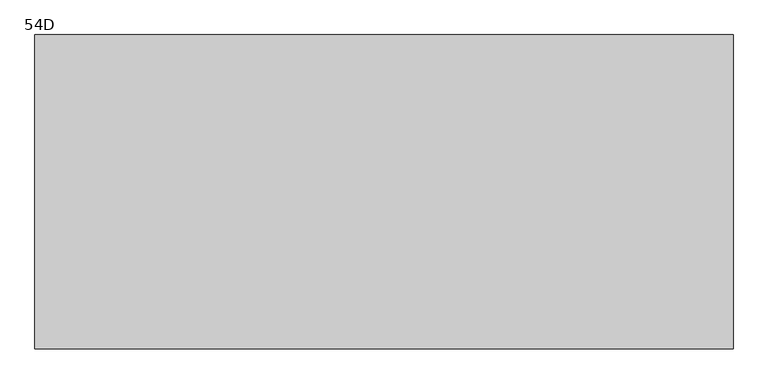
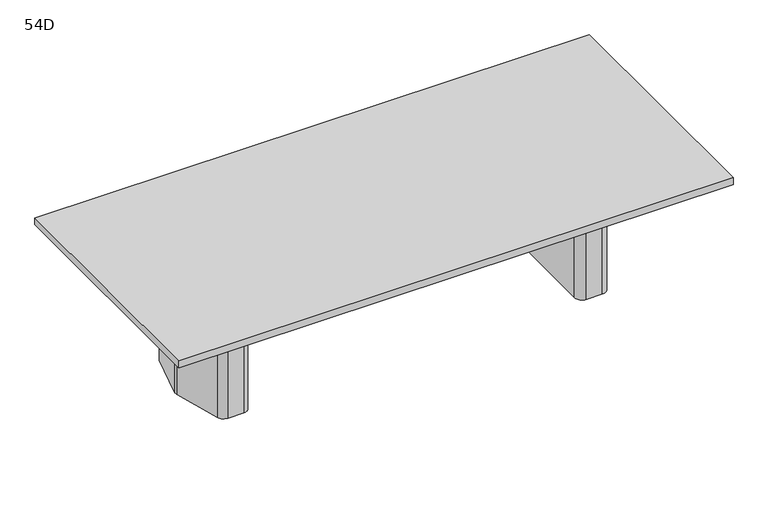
"""IFC4 building model written with IfcOpenShell, lengths in millimetres: furniture geometry, Coalesse_AM_Table_Conference_ETable2_Rectangular_10ft_TwoBase : 54D."""

from ifc_helpers import new_model, si_unit, frame, origin, place, context, project, spatial, polyline, circle_curve, outline, extrude, source, transform, mapped, element, save
from ifc_brep_helpers import plane_surface, cylinder_surface, revolved_surface, advanced_brep


def furniture_54d_78a3309c(model_context):
    return source(origin(), model_context, "Body", "SolidModel", [
        advanced_brep(
        [(1065.424548, 274.2093613, 698.5), (1025.5579246, 304.8, 698.5), (936.625, 304.8, 698.5), (895.35, 263.525, 698.5), (895.35, -263.525, 698.5), (936.625, -304.8, 698.5), (1025.5579246, -304.8, 698.5), (1065.424548, -274.2093613, 698.5), (1136.0503901, -10.6333708, 698.5), (1136.0503901, 10.6333708, 698.5), (933.45, -206.375, 698.5), (933.45, 206.375, 698.5), (958.85, 231.775, 698.5), (1017.8608422, 231.775, 698.5), (1042.395338, 212.9490792, 698.5), (1081.0875, 68.54974, 698.5), (1081.0875, -68.54974, 698.5), (1042.395338, -212.9490792, 698.5), (1017.8608422, -231.775, 698.5), (958.85, -231.775, 698.5), (1065.424548, 274.2093613, 3.175), (1136.0503901, 10.6333708, 3.175), (1136.0503901, -10.6333708, 3.175), (1065.424548, -274.2093613, 3.175), (1025.5579246, -304.8, 3.175), (936.625, -304.8, 3.175), (895.35, -263.525, 3.175), (895.35, 263.525, 3.175), (936.625, 304.8, 3.175), (1025.5579246, 304.8, 3.175), (1054.6625859, 216.2361187, 3.175), (1017.8608422, 244.475, 3.175), (958.85, 244.475, 3.175), (920.75, 206.375, 3.175), (920.75, -206.375, 3.175), (958.85, -244.475, 3.175), (1017.8608422, -244.475, 3.175), (1054.6625859, -216.2361187, 3.175), (1093.7875, -70.2217466, 3.175), (1093.7875, 70.2217466, 3.175), (958.85, -231.775, 3.175), (933.45, -206.375, 3.175), (1017.8608422, -231.775, 3.175), (1042.395338, -212.9490792, 3.175), (1081.0875, -68.54974, 3.175), (1081.0875, 68.54974, 3.175), (1042.395338, 212.9490792, 3.175), (1017.8608422, 231.775, 3.175), (958.85, 231.775, 3.175), (933.45, 206.375, 3.175), (1054.6625859, 216.2361187, 0.0), (1093.7875, 70.2217466, 0.0), (1093.7875, -70.2217466, 0.0), (1054.6625859, -216.2361187, 0.0), (1017.8608422, -244.475, 0.0), (958.85, -244.475, 0.0), (920.75, -206.375, 0.0), (920.75, 206.375, 0.0), (958.85, 244.475, 0.0), (1017.8608422, 244.475, 0.0)],
        [
            (0, 1, circle_curve(frame((1025.5579246, 263.5270004, 698.5), z_axis=(0.0, 0.0, 1.0), x_axis=(-1.0, 0.0, 0.0)), 41.2729996)),
            (1, 2),
            (2, 3, circle_curve(frame((936.625, 263.525, 698.5), z_axis=(0.0, 0.0, 1.0), x_axis=(-1.0, 0.0, 0.0)), 41.275)),
            (3, 4),
            (4, 5, circle_curve(frame((936.625, -263.525, 698.5), z_axis=(0.0, 0.0, 1.0), x_axis=(-1.0, 0.0, 0.0)), 41.275)),
            (5, 6),
            (6, 7, circle_curve(frame((1025.5579246, -263.5270004, 698.5), z_axis=(0.0, 0.0, 1.0), x_axis=(-1.0, 0.0, 0.0)), 41.2729996)),
            (7, 8),
            (8, 9, circle_curve(frame((1096.3665979, 0.0, 698.5), z_axis=(0.0, 0.0, 1.0), x_axis=(-1.0, 0.0, 0.0)), 41.0837187)),
            (9, 0),
            (10, 11),
            (11, 12, circle_curve(frame((958.85, 206.375, 698.5), z_axis=(0.0, 0.0, -1.0), x_axis=(-1.0, 0.0, 0.0)), 25.4)),
            (12, 13),
            (13, 14, circle_curve(frame((1017.8608422, 206.375, 698.5), z_axis=(0.0, 0.0, -1.0), x_axis=(-1.0, 0.0, 0.0)), 25.4)),
            (14, 15),
            (15, 16),
            (16, 17),
            (17, 18, circle_curve(frame((1017.8608422, -206.375, 698.5), z_axis=(0.0, 0.0, -1.0), x_axis=(-1.0, 0.0, 0.0)), 25.4)),
            (18, 19),
            (19, 10, circle_curve(frame((958.85, -206.375, 698.5), z_axis=(0.0, 0.0, -1.0), x_axis=(-1.0, 0.0, 0.0)), 25.4)),
            (20, 21),
            (21, 22, circle_curve(frame((1096.3665979, 0.0, 3.175), z_axis=(0.0, 0.0, -1.0), x_axis=(-1.0, 0.0, 0.0)), 41.0837187)),
            (22, 23),
            (23, 24, circle_curve(frame((1025.5579246, -263.5270004, 3.175), z_axis=(0.0, 0.0, -1.0), x_axis=(-1.0, 0.0, 0.0)), 41.2729996)),
            (24, 25),
            (25, 26, circle_curve(frame((936.625, -263.525, 3.175), z_axis=(0.0, 0.0, -1.0), x_axis=(-1.0, 0.0, 0.0)), 41.275)),
            (26, 27),
            (27, 28, circle_curve(frame((936.625, 263.525, 3.175), z_axis=(0.0, 0.0, -1.0), x_axis=(-1.0, 0.0, 0.0)), 41.275)),
            (28, 29),
            (29, 20, circle_curve(frame((1025.5579246, 263.5270004, 3.175), z_axis=(0.0, 0.0, -1.0), x_axis=(-1.0, 0.0, 0.0)), 41.2729996)),
            (30, 31, circle_curve(frame((1017.8608422, 206.375, 3.175), z_axis=(0.0, 0.0, 1.0), x_axis=(-1.0, 0.0, 0.0)), 38.1)),
            (31, 32),
            (32, 33, circle_curve(frame((958.85, 206.375, 3.175), z_axis=(0.0, 0.0, 1.0), x_axis=(-1.0, 0.0, 0.0)), 38.1)),
            (33, 34),
            (34, 35, circle_curve(frame((958.85, -206.375, 3.175), z_axis=(0.0, 0.0, 1.0), x_axis=(-1.0, 0.0, 0.0)), 38.1)),
            (35, 36),
            (36, 37, circle_curve(frame((1017.8608422, -206.375, 3.175), z_axis=(0.0, 0.0, 1.0), x_axis=(-1.0, 0.0, 0.0)), 38.1)),
            (37, 38),
            (38, 39),
            (39, 30),
            (9, 21),
            (20, 0),
            (8, 22),
            (7, 23),
            (6, 24),
            (5, 25),
            (4, 26),
            (3, 27),
            (2, 28),
            (1, 29),
            (19, 40),
            (40, 41, circle_curve(frame((958.85, -206.375, 3.175), z_axis=(0.0, 0.0, -1.0), x_axis=(-1.0, 0.0, 0.0)), 25.4)),
            (41, 10),
            (18, 42),
            (42, 40),
            (17, 43),
            (43, 42, circle_curve(frame((1017.8608422, -206.375, 3.175), z_axis=(0.0, 0.0, -1.0), x_axis=(-1.0, 0.0, 0.0)), 25.4)),
            (16, 44),
            (44, 43),
            (15, 45),
            (45, 44),
            (14, 46),
            (46, 45),
            (13, 47),
            (47, 46, circle_curve(frame((1017.8608422, 206.375, 3.175), z_axis=(0.0, 0.0, -1.0), x_axis=(-1.0, 0.0, 0.0)), 25.4)),
            (12, 48),
            (48, 47),
            (11, 49),
            (49, 48, circle_curve(frame((958.85, 206.375, 3.175), z_axis=(0.0, 0.0, -1.0), x_axis=(-1.0, 0.0, 0.0)), 25.4)),
            (41, 49),
            (50, 51),
            (51, 52),
            (52, 53),
            (53, 54, circle_curve(frame((1017.8608422, -206.375, 0.0), z_axis=(0.0, 0.0, -1.0), x_axis=(-1.0, 0.0, 0.0)), 38.1)),
            (54, 55),
            (55, 56, circle_curve(frame((958.85, -206.375, 0.0), z_axis=(0.0, 0.0, -1.0), x_axis=(-1.0, 0.0, 0.0)), 38.1)),
            (56, 57),
            (57, 58, circle_curve(frame((958.85, 206.375, 0.0), z_axis=(0.0, 0.0, -1.0), x_axis=(-1.0, 0.0, 0.0)), 38.1)),
            (58, 59),
            (59, 50, circle_curve(frame((1017.8608422, 206.375, 0.0), z_axis=(0.0, 0.0, -1.0), x_axis=(-1.0, 0.0, 0.0)), 38.1)),
            (50, 30),
            (39, 51),
            (38, 52),
            (37, 53),
            (36, 54),
            (35, 55),
            (34, 56),
            (33, 57),
            (32, 58),
            (31, 59),
        ],
        [
            plane_surface(frame((1136.0374275, 10.6817473, 698.5), z_axis=(0.0, 0.0, 1.0000000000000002), x_axis=(0.25882201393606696, -0.9659250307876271, 0.0))),
            plane_surface(frame((1136.0374275, 10.6817473, 3.175), z_axis=(0.0, 0.0, -1.0000000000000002), x_axis=(-0.25882201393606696, 0.9659250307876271, 0.0))),
            plane_surface(frame((1065.424548, 274.2093613, 698.5), z_axis=(0.9659250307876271, 0.25882201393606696, 0.0), x_axis=(0.0, 0.0, -1.0))),
            cylinder_surface(frame((1096.3665979, 0.0, 3.175), z_axis=(0.0, 0.0, 1.0), x_axis=(-1.0, 0.0, 0.0)), 41.0837187),
            plane_surface(frame((1136.0503901, -10.6333708, 698.5), z_axis=(0.9659250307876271, -0.2588220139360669, 0.0), x_axis=(0.0, 0.0, -1.0))),
            cylinder_surface(frame((1025.5579246, -263.5270004, 3.175), z_axis=(0.0, 0.0, 1.0), x_axis=(-1.0, 0.0, 0.0)), 41.2729996),
            plane_surface(frame((1025.5579246, -304.8, 698.5), z_axis=(0.0, -1.0, 0.0), x_axis=(0.0, 0.0, -1.0))),
            cylinder_surface(frame((936.625, -263.525, 3.175), z_axis=(0.0, 0.0, 1.0), x_axis=(-1.0, 0.0, 0.0)), 41.275),
            plane_surface(frame((895.35, -263.525, 698.5), z_axis=(-1.0, 0.0, 0.0), x_axis=(0.0, 0.0, -1.0))),
            cylinder_surface(frame((936.625, 263.525, 3.175), z_axis=(0.0, 0.0, 1.0), x_axis=(-1.0, 0.0, 0.0)), 41.275),
            plane_surface(frame((936.625, 304.8, 698.5), z_axis=(0.0, 1.0, 0.0), x_axis=(0.0, 0.0, -1.0))),
            cylinder_surface(frame((1025.5579246, 263.5270004, 3.175), z_axis=(0.0, 0.0, 1.0), x_axis=(-1.0, 0.0, 0.0)), 41.2729996),
            revolved_surface(polyline([(933.45, -206.375, 3.175), (933.45, -206.375, 698.5)]), (958.85, -206.375, 0.0), (0.0, 0.0, -1.0)),
            plane_surface(frame((958.85, -231.775, 698.5), z_axis=(0.0, 1.0, 0.0), x_axis=(0.0, 0.0, -1.0))),
            revolved_surface(polyline([(992.4608422, -206.375, 3.175), (992.4608422, -206.375, 698.5)]), (1017.8608422, -206.375, 0.0), (0.0, 0.0, -1.0)),
            plane_surface(frame((1042.395338, -212.9490792, 698.5), z_axis=(-0.9659250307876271, 0.2588220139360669, 0.0), x_axis=(0.0, 0.0, -1.0))),
            plane_surface(frame((1081.0875, -68.54974, 698.5), z_axis=(-1.0, 0.0, 0.0), x_axis=(0.0, 0.0, -1.0))),
            plane_surface(frame((1081.0875, 68.54974, 698.5), z_axis=(-0.9659250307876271, -0.25882201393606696, 0.0), x_axis=(0.0, 0.0, -1.0))),
            revolved_surface(polyline([(992.4608422, 206.375, 3.175), (992.4608422, 206.375, 698.5)]), (1017.8608422, 206.375, 0.0), (0.0, 0.0, -1.0)),
            plane_surface(frame((1017.8608422, 231.775, 698.5), z_axis=(0.0, -1.0, 0.0), x_axis=(0.0, 0.0, -1.0))),
            revolved_surface(polyline([(933.45, 206.375, 3.175), (933.45, 206.375, 698.5)]), (958.85, 206.375, 0.0), (0.0, 0.0, -1.0)),
            plane_surface(frame((933.45, 206.375, 698.5), z_axis=(1.0, 0.0, 0.0), x_axis=(0.0, 0.0, -1.0))),
            plane_surface(frame((1093.3547479, 71.8367796, 3.175), z_axis=(0.0, 0.0, 1.0), x_axis=(0.25882201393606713, -0.965925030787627, 0.0))),
            plane_surface(frame((1093.3547479, 71.8367796, 0.0), z_axis=(0.0, 0.0, -1.0), x_axis=(-0.25882201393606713, 0.965925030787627, 0.0))),
            plane_surface(frame((1054.6625859, 216.2361187, 3.175), z_axis=(0.965925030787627, 0.25882201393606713, 0.0), x_axis=(0.0, 0.0, -1.0))),
            plane_surface(frame((1093.7875, 70.2217466, 3.175), z_axis=(1.0, 0.0, 0.0), x_axis=(0.0, 0.0, -1.0))),
            plane_surface(frame((1093.7875, -70.2217466, 3.175), z_axis=(0.9659250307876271, -0.2588220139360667, 0.0), x_axis=(0.0, 0.0, -1.0))),
            cylinder_surface(frame((1017.8608422, -206.375, 0.0), z_axis=(0.0, 0.0, 1.0), x_axis=(-1.0, 0.0, 0.0)), 38.1),
            plane_surface(frame((1017.8608422, -244.475, 3.175), z_axis=(0.0, -1.0, 0.0), x_axis=(0.0, 0.0, -1.0))),
            cylinder_surface(frame((958.85, -206.375, 0.0), z_axis=(0.0, 0.0, 1.0), x_axis=(-1.0, 0.0, 0.0)), 38.1),
            plane_surface(frame((920.75, -206.375, 3.175), z_axis=(-1.0, 0.0, 0.0), x_axis=(0.0, 0.0, -1.0))),
            cylinder_surface(frame((958.85, 206.375, 0.0), z_axis=(0.0, 0.0, 1.0), x_axis=(-1.0, 0.0, 0.0)), 38.1),
            plane_surface(frame((958.85, 244.475, 3.175), z_axis=(0.0, 1.0, 0.0), x_axis=(0.0, 0.0, -1.0))),
            cylinder_surface(frame((1017.8608422, 206.375, 0.0), z_axis=(0.0, 0.0, 1.0), x_axis=(-1.0, 0.0, 0.0)), 38.1),
        ],
        [
            (0, [[1, 2, 3, 4, 5, 6, 7, 8, 9, 10], [11, 12, 13, 14, 15, 16, 17, 18, 19, 20]]),
            (1, [[21, 22, 23, 24, 25, 26, 27, 28, 29, 30], [31, 32, 33, 34, 35, 36, 37, 38, 39, 40]]),
            (2, [[41, -21, 42, -10]]),
            (3, [[43, -22, -41, -9]]),
            (4, [[44, -23, -43, -8]]),
            (5, [[45, -24, -44, -7]]),
            (6, [[46, -25, -45, -6]]),
            (7, [[47, -26, -46, -5]]),
            (8, [[48, -27, -47, -4]]),
            (9, [[49, -28, -48, -3]]),
            (10, [[50, -29, -49, -2]]),
            (11, [[-42, -30, -50, -1]]),
            (12, [[51, 52, 53, -20]]),
            (13, [[54, 55, -51, -19]]),
            (14, [[56, 57, -54, -18]]),
            (15, [[58, 59, -56, -17]]),
            (16, [[60, 61, -58, -16]]),
            (17, [[62, 63, -60, -15]]),
            (18, [[64, 65, -62, -14]]),
            (19, [[66, 67, -64, -13]]),
            (20, [[68, 69, -66, -12]]),
            (21, [[-53, 70, -68, -11]]),
            (22, [[-55, -57, -59, -61, -63, -65, -67, -69, -70, -52]]),
            (23, [[71, 72, 73, 74, 75, 76, 77, 78, 79, 80]]),
            (24, [[81, -40, 82, -71]]),
            (25, [[-82, -39, 83, -72]]),
            (26, [[-83, -38, 84, -73]]),
            (27, [[-84, -37, 85, -74]]),
            (28, [[-85, -36, 86, -75]]),
            (29, [[-86, -35, 87, -76]]),
            (30, [[-87, -34, 88, -77]]),
            (31, [[-88, -33, 89, -78]]),
            (32, [[-89, -32, 90, -79]]),
            (33, [[-90, -31, -81, -80]]),
        ],
    ),
        advanced_brep(
        [(-1076.537048, 274.2093613, 698.5), (-1147.1628901, 10.6333708, 698.5), (-1147.1628901, -10.6333708, 698.5), (-1076.537048, -274.2093613, 698.5), (-1036.6704246, -304.8, 698.5), (-947.7375, -304.8, 698.5), (-906.4625, -263.525, 698.5), (-906.4625, 263.525, 698.5), (-947.7375, 304.8, 698.5), (-1036.6704246, 304.8, 698.5), (-944.5625, -206.375, 698.5), (-969.9625, -231.775, 698.5), (-1028.9733422, -231.775, 698.5), (-1053.507838, -212.9490792, 698.5), (-1092.2, -68.54974, 698.5), (-1092.2, 68.54974, 698.5), (-1053.507838, 212.9490792, 698.5), (-1028.9733422, 231.775, 698.5), (-969.9625, 231.775, 698.5), (-944.5625, 206.375, 698.5), (-1076.537048, 274.2093613, 3.175), (-1036.6704246, 304.8, 3.175), (-947.7375, 304.8, 3.175), (-906.4625, 263.525, 3.175), (-906.4625, -263.525, 3.175), (-947.7375, -304.8, 3.175), (-1036.6704246, -304.8, 3.175), (-1076.537048, -274.2093613, 3.175), (-1147.1628901, -10.6333708, 3.175), (-1147.1628901, 10.6333708, 3.175), (-1065.7750859, 216.2361187, 3.175), (-1104.9, 70.2217466, 3.175), (-1104.9, -70.2217466, 3.175), (-1065.7750859, -216.2361187, 3.175), (-1028.9733422, -244.475, 3.175), (-969.9625, -244.475, 3.175), (-931.8625, -206.375, 3.175), (-931.8625, 206.375, 3.175), (-969.9625, 244.475, 3.175), (-1028.9733422, 244.475, 3.175), (-944.5625, -206.375, 3.175), (-969.9625, -231.775, 3.175), (-1028.9733422, -231.775, 3.175), (-1053.507838, -212.9490792, 3.175), (-1092.2, -68.54974, 3.175), (-1092.2, 68.54974, 3.175), (-1053.507838, 212.9490792, 3.175), (-1028.9733422, 231.775, 3.175), (-969.9625, 231.775, 3.175), (-944.5625, 206.375, 3.175), (-1065.7750859, 216.2361187, 0.0), (-1028.9733422, 244.475, 0.0), (-969.9625, 244.475, 0.0), (-931.8625, 206.375, 0.0), (-931.8625, -206.375, 0.0), (-969.9625, -244.475, 0.0), (-1028.9733422, -244.475, 0.0), (-1065.7750859, -216.2361187, 0.0), (-1104.9, -70.2217466, 0.0), (-1104.9, 70.2217466, 0.0)],
        [
            (0, 1),
            (1, 2, circle_curve(frame((-1107.4790979, 0.0, 698.5), z_axis=(0.0, 0.0, 1.0), x_axis=(1.0, 0.0, 0.0)), 41.0837187)),
            (2, 3),
            (3, 4, circle_curve(frame((-1036.6704246, -263.5270004, 698.5), z_axis=(0.0, 0.0, 1.0), x_axis=(1.0, 0.0, 0.0)), 41.2729996)),
            (4, 5),
            (5, 6, circle_curve(frame((-947.7375, -263.525, 698.5), z_axis=(0.0, 0.0, 1.0), x_axis=(1.0, 0.0, 0.0)), 41.275)),
            (6, 7),
            (7, 8, circle_curve(frame((-947.7375, 263.525, 698.5), z_axis=(0.0, 0.0, 1.0), x_axis=(1.0, 0.0, 0.0)), 41.275)),
            (8, 9),
            (9, 0, circle_curve(frame((-1036.6704246, 263.5270004, 698.5), z_axis=(0.0, 0.0, 1.0), x_axis=(1.0, 0.0, 0.0)), 41.2729996)),
            (10, 11, circle_curve(frame((-969.9625, -206.375, 698.5), z_axis=(0.0, 0.0, -1.0), x_axis=(1.0, 0.0, 0.0)), 25.4)),
            (11, 12),
            (12, 13, circle_curve(frame((-1028.9733422, -206.375, 698.5), z_axis=(0.0, 0.0, -1.0), x_axis=(1.0, 0.0, 0.0)), 25.4)),
            (13, 14),
            (14, 15),
            (15, 16),
            (16, 17, circle_curve(frame((-1028.9733422, 206.375, 698.5), z_axis=(0.0, 0.0, -1.0), x_axis=(1.0, 0.0, 0.0)), 25.4)),
            (17, 18),
            (18, 19, circle_curve(frame((-969.9625, 206.375, 698.5), z_axis=(0.0, 0.0, -1.0), x_axis=(1.0, 0.0, 0.0)), 25.4)),
            (19, 10),
            (20, 21, circle_curve(frame((-1036.6704246, 263.5270004, 3.175), z_axis=(0.0, 0.0, -1.0), x_axis=(1.0, 0.0, 0.0)), 41.2729996)),
            (21, 22),
            (22, 23, circle_curve(frame((-947.7375, 263.525, 3.175), z_axis=(0.0, 0.0, -1.0), x_axis=(1.0, 0.0, 0.0)), 41.275)),
            (23, 24),
            (24, 25, circle_curve(frame((-947.7375, -263.525, 3.175), z_axis=(0.0, 0.0, -1.0), x_axis=(1.0, 0.0, 0.0)), 41.275)),
            (25, 26),
            (26, 27, circle_curve(frame((-1036.6704246, -263.5270004, 3.175), z_axis=(0.0, 0.0, -1.0), x_axis=(1.0, 0.0, 0.0)), 41.2729996)),
            (27, 28),
            (28, 29, circle_curve(frame((-1107.4790979, 0.0, 3.175), z_axis=(0.0, 0.0, -1.0), x_axis=(1.0, 0.0, 0.0)), 41.0837187)),
            (29, 20),
            (30, 31),
            (31, 32),
            (32, 33),
            (33, 34, circle_curve(frame((-1028.9733422, -206.375, 3.175), z_axis=(0.0, 0.0, 1.0), x_axis=(1.0, 0.0, 0.0)), 38.1)),
            (34, 35),
            (35, 36, circle_curve(frame((-969.9625, -206.375, 3.175), z_axis=(0.0, 0.0, 1.0), x_axis=(1.0, 0.0, 0.0)), 38.1)),
            (36, 37),
            (37, 38, circle_curve(frame((-969.9625, 206.375, 3.175), z_axis=(0.0, 0.0, 1.0), x_axis=(1.0, 0.0, 0.0)), 38.1)),
            (38, 39),
            (39, 30, circle_curve(frame((-1028.9733422, 206.375, 3.175), z_axis=(0.0, 0.0, 1.0), x_axis=(1.0, 0.0, 0.0)), 38.1)),
            (0, 20),
            (29, 1),
            (28, 2),
            (27, 3),
            (26, 4),
            (25, 5),
            (24, 6),
            (23, 7),
            (22, 8),
            (21, 9),
            (10, 40),
            (40, 41, circle_curve(frame((-969.9625, -206.375, 3.175), z_axis=(0.0, 0.0, -1.0), x_axis=(1.0, 0.0, 0.0)), 25.4)),
            (41, 11),
            (41, 42),
            (42, 12),
            (42, 43, circle_curve(frame((-1028.9733422, -206.375, 3.175), z_axis=(0.0, 0.0, -1.0), x_axis=(1.0, 0.0, 0.0)), 25.4)),
            (43, 13),
            (43, 44),
            (44, 14),
            (44, 45),
            (45, 15),
            (45, 46),
            (46, 16),
            (46, 47, circle_curve(frame((-1028.9733422, 206.375, 3.175), z_axis=(0.0, 0.0, -1.0), x_axis=(1.0, 0.0, 0.0)), 25.4)),
            (47, 17),
            (47, 48),
            (48, 18),
            (48, 49, circle_curve(frame((-969.9625, 206.375, 3.175), z_axis=(0.0, 0.0, -1.0), x_axis=(1.0, 0.0, 0.0)), 25.4)),
            (49, 19),
            (49, 40),
            (50, 51, circle_curve(frame((-1028.9733422, 206.375, 0.0), z_axis=(0.0, 0.0, -1.0), x_axis=(1.0, 0.0, 0.0)), 38.1)),
            (51, 52),
            (52, 53, circle_curve(frame((-969.9625, 206.375, 0.0), z_axis=(0.0, 0.0, -1.0), x_axis=(1.0, 0.0, 0.0)), 38.1)),
            (53, 54),
            (54, 55, circle_curve(frame((-969.9625, -206.375, 0.0), z_axis=(0.0, 0.0, -1.0), x_axis=(1.0, 0.0, 0.0)), 38.1)),
            (55, 56),
            (56, 57, circle_curve(frame((-1028.9733422, -206.375, 0.0), z_axis=(0.0, 0.0, -1.0), x_axis=(1.0, 0.0, 0.0)), 38.1)),
            (57, 58),
            (58, 59),
            (59, 50),
            (59, 31),
            (30, 50),
            (58, 32),
            (57, 33),
            (56, 34),
            (55, 35),
            (54, 36),
            (53, 37),
            (52, 38),
            (51, 39),
        ],
        [
            plane_surface(frame((-1147.1499275, 10.6817473, 698.5), z_axis=(0.0, 0.0, 1.0000000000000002), x_axis=(-0.25882201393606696, -0.9659250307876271, 0.0))),
            plane_surface(frame((-1147.1499275, 10.6817473, 3.175), z_axis=(0.0, 0.0, -1.0000000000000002), x_axis=(0.25882201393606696, 0.9659250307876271, 0.0))),
            plane_surface(frame((-1076.537048, 274.2093613, 698.5), z_axis=(-0.9659250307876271, 0.25882201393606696, 0.0), x_axis=(0.0, 0.0, -1.0))),
            cylinder_surface(frame((-1107.4790979, 0.0, 3.175), z_axis=(0.0, 0.0, 1.0), x_axis=(1.0, 0.0, 0.0)), 41.0837187),
            plane_surface(frame((-1147.1628901, -10.6333708, 698.5), z_axis=(-0.9659250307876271, -0.2588220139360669, 0.0), x_axis=(0.0, 0.0, -1.0))),
            cylinder_surface(frame((-1036.6704246, -263.5270004, 3.175), z_axis=(0.0, 0.0, 1.0), x_axis=(1.0, 0.0, 0.0)), 41.2729996),
            plane_surface(frame((-1036.6704246, -304.8, 698.5), z_axis=(0.0, -1.0, 0.0), x_axis=(0.0, 0.0, -1.0))),
            cylinder_surface(frame((-947.7375, -263.525, 3.175), z_axis=(0.0, 0.0, 1.0), x_axis=(1.0, 0.0, 0.0)), 41.275),
            plane_surface(frame((-906.4625, -263.525, 698.5), z_axis=(1.0, 0.0, 0.0), x_axis=(0.0, 0.0, -1.0))),
            cylinder_surface(frame((-947.7375, 263.525, 3.175), z_axis=(0.0, 0.0, 1.0), x_axis=(1.0, 0.0, 0.0)), 41.275),
            plane_surface(frame((-947.7375, 304.8, 698.5), z_axis=(0.0, 1.0, 0.0), x_axis=(0.0, 0.0, -1.0))),
            cylinder_surface(frame((-1036.6704246, 263.5270004, 3.175), z_axis=(0.0, 0.0, 1.0), x_axis=(1.0, 0.0, 0.0)), 41.2729996),
            revolved_surface(polyline([(-944.5625, -206.375, 3.175), (-944.5625, -206.375, 698.5)]), (-969.9625, -206.375, 0.0), (0.0, 0.0, -1.0)),
            plane_surface(frame((-969.9625, -231.775, 698.5), z_axis=(0.0, 1.0, 0.0), x_axis=(0.0, 0.0, -1.0))),
            revolved_surface(polyline([(-1003.5733422, -206.375, 3.175), (-1003.5733422, -206.375, 698.5)]), (-1028.9733422, -206.375, 0.0), (0.0, 0.0, -1.0)),
            plane_surface(frame((-1053.507838, -212.9490792, 698.5), z_axis=(0.9659250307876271, 0.2588220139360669, 0.0), x_axis=(0.0, 0.0, -1.0))),
            plane_surface(frame((-1092.2, -68.54974, 698.5), z_axis=(1.0, 0.0, 0.0), x_axis=(0.0, 0.0, -1.0))),
            plane_surface(frame((-1092.2, 68.54974, 698.5), z_axis=(0.9659250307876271, -0.25882201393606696, 0.0), x_axis=(0.0, 0.0, -1.0))),
            revolved_surface(polyline([(-1003.5733422, 206.375, 3.175), (-1003.5733422, 206.375, 698.5)]), (-1028.9733422, 206.375, 0.0), (0.0, 0.0, -1.0)),
            plane_surface(frame((-1028.9733422, 231.775, 698.5), z_axis=(0.0, -1.0, 0.0), x_axis=(0.0, 0.0, -1.0))),
            revolved_surface(polyline([(-944.5625, 206.375, 3.175), (-944.5625, 206.375, 698.5)]), (-969.9625, 206.375, 0.0), (0.0, 0.0, -1.0)),
            plane_surface(frame((-944.5625, 206.375, 698.5), z_axis=(-1.0, 0.0, 0.0), x_axis=(0.0, 0.0, -1.0))),
            plane_surface(frame((-1104.4672479, 71.8367796, 3.175), z_axis=(0.0, 0.0, 1.0), x_axis=(-0.25882201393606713, -0.965925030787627, 0.0))),
            plane_surface(frame((-1104.4672479, 71.8367796, 0.0), z_axis=(0.0, 0.0, -1.0), x_axis=(0.25882201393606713, 0.965925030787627, 0.0))),
            plane_surface(frame((-1065.7750859, 216.2361187, 3.175), z_axis=(-0.965925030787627, 0.25882201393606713, 0.0), x_axis=(0.0, 0.0, -1.0))),
            plane_surface(frame((-1104.9, 70.2217466, 3.175), z_axis=(-1.0, 0.0, 0.0), x_axis=(0.0, 0.0, -1.0))),
            plane_surface(frame((-1104.9, -70.2217466, 3.175), z_axis=(-0.9659250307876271, -0.2588220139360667, 0.0), x_axis=(0.0, 0.0, -1.0))),
            cylinder_surface(frame((-1028.9733422, -206.375, 0.0), z_axis=(0.0, 0.0, 1.0), x_axis=(1.0, 0.0, 0.0)), 38.1),
            plane_surface(frame((-1028.9733422, -244.475, 3.175), z_axis=(0.0, -1.0, 0.0), x_axis=(0.0, 0.0, -1.0))),
            cylinder_surface(frame((-969.9625, -206.375, 0.0), z_axis=(0.0, 0.0, 1.0), x_axis=(1.0, 0.0, 0.0)), 38.1),
            plane_surface(frame((-931.8625, -206.375, 3.175), z_axis=(1.0, 0.0, 0.0), x_axis=(0.0, 0.0, -1.0))),
            cylinder_surface(frame((-969.9625, 206.375, 0.0), z_axis=(0.0, 0.0, 1.0), x_axis=(1.0, 0.0, 0.0)), 38.1),
            plane_surface(frame((-969.9625, 244.475, 3.175), z_axis=(0.0, 1.0, 0.0), x_axis=(0.0, 0.0, -1.0))),
            cylinder_surface(frame((-1028.9733422, 206.375, 0.0), z_axis=(0.0, 0.0, 1.0), x_axis=(1.0, 0.0, 0.0)), 38.1),
        ],
        [
            (0, [[1, 2, 3, 4, 5, 6, 7, 8, 9, 10], [11, 12, 13, 14, 15, 16, 17, 18, 19, 20]]),
            (1, [[21, 22, 23, 24, 25, 26, 27, 28, 29, 30], [31, 32, 33, 34, 35, 36, 37, 38, 39, 40]]),
            (2, [[-1, 41, -30, 42]]),
            (3, [[-2, -42, -29, 43]]),
            (4, [[-3, -43, -28, 44]]),
            (5, [[-4, -44, -27, 45]]),
            (6, [[-5, -45, -26, 46]]),
            (7, [[-6, -46, -25, 47]]),
            (8, [[-7, -47, -24, 48]]),
            (9, [[-8, -48, -23, 49]]),
            (10, [[-9, -49, -22, 50]]),
            (11, [[-10, -50, -21, -41]]),
            (12, [[-11, 51, 52, 53]]),
            (13, [[-12, -53, 54, 55]]),
            (14, [[-13, -55, 56, 57]]),
            (15, [[-14, -57, 58, 59]]),
            (16, [[-15, -59, 60, 61]]),
            (17, [[-16, -61, 62, 63]]),
            (18, [[-17, -63, 64, 65]]),
            (19, [[-18, -65, 66, 67]]),
            (20, [[-19, -67, 68, 69]]),
            (21, [[-20, -69, 70, -51]]),
            (22, [[-52, -70, -68, -66, -64, -62, -60, -58, -56, -54]]),
            (23, [[71, 72, 73, 74, 75, 76, 77, 78, 79, 80]]),
            (24, [[-80, 81, -31, 82]]),
            (25, [[-79, 83, -32, -81]]),
            (26, [[-78, 84, -33, -83]]),
            (27, [[-77, 85, -34, -84]]),
            (28, [[-76, 86, -35, -85]]),
            (29, [[-75, 87, -36, -86]]),
            (30, [[-74, 88, -37, -87]]),
            (31, [[-73, 89, -38, -88]]),
            (32, [[-72, 90, -39, -89]]),
            (33, [[-71, -82, -40, -90]]),
        ],
    ),
        extrude(outline(polyline([(96.8375, 698.5), (103.1875, 698.5), (103.1875, 476.25), (-103.1875, 476.25), (-103.1875, 698.5), (-96.8375, 698.5), (-96.8375, 482.6), (96.8375, 482.6), (96.8375, 698.5)])), frame((-906.4625, 0.0, 0.0), z_axis=(1.0, 0.0, 0.0), x_axis=(0.0, 1.0, 0.0)), (0.0, 0.0, 1.0), 1801.8125),
        extrude(outline(polyline([(1524.0, 685.8), (1524.0, -685.8), (-1524.0, -685.8), (-1524.0, 685.8), (1524.0, 685.8)])), frame((0.0, 0.0, 698.5), z_axis=(0.0, 0.0, 1.0), x_axis=(1.0, 0.0, 0.0)), (0.0, 0.0, 1.0), 38.1),
    ])


if __name__ == "__main__":
    model = new_model("IFC4")
    model_context = context("Model", 3, world=origin())
    ifc_project = project(units=[si_unit("LENGTHUNIT", "METRE", prefix="MILLI")], contexts=[model_context])
    site = spatial("IfcSite", under=ifc_project)
    building = spatial("IfcBuilding", under=site)
    placement = place(None, origin())
    furniture_54d_shape = furniture_54d_78a3309c(model_context)
    element("IfcFurniture", 1, ObjectType="Coalesse_AM_Table_Conference_ETable2_Rectangular_10ft_TwoBase : 54D", at=placement, inside=building, context=model_context, shape_type="MappedRepresentation", body=[
        mapped(furniture_54d_shape, transform((0.0, 0.0, 0.0), x_axis=(1.0, 0.0, 0.0), y_axis=(0.0, 1.0, 0.0), z_axis=(0.0, 0.0, 1.0))),
    ])
    save(model, "model.ifc")
